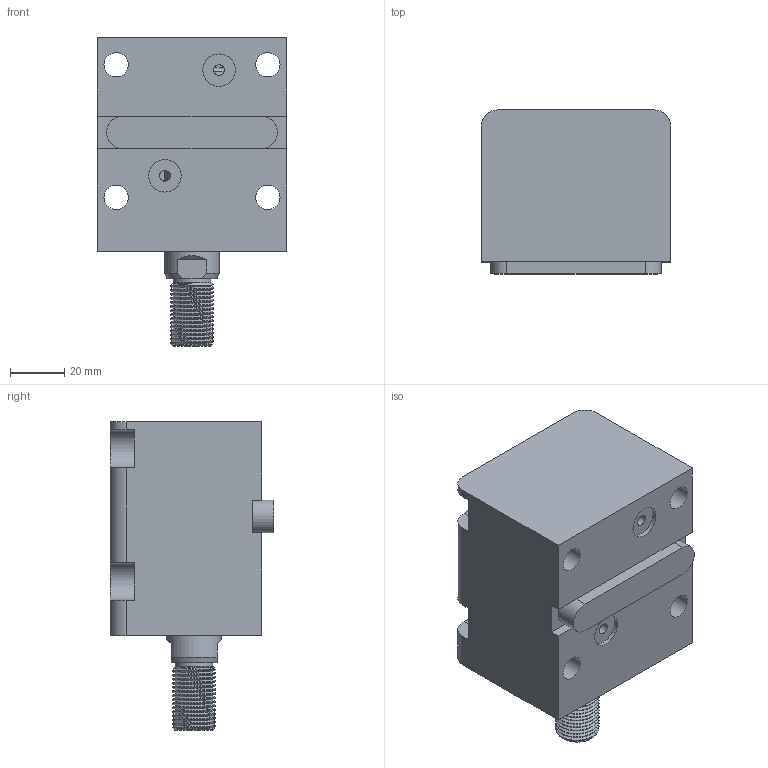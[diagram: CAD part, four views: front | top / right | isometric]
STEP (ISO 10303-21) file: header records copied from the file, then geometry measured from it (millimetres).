
FILE_DESCRIPTION(/* description */ (''),/* implementation_level */ '2;1');
FILE_NAME(/* name */ 'CHTB-LAM32-25W.stp',/* time_stamp */ '2022-04-29T16:08:39+08:00',/* author */ (''),/* organization */ (''),/* preprocessor_version */ 'ST-DEVELOPER v16.7',/* originating_system */ 'SIEMENS PLM Software NX 12.0',/* authorisation */ '');
FILE_SCHEMA (('AUTOMOTIVE_DESIGN { 1 0 10303 214 3 1 1 1 }'));
Length unit declared in the file: millimetre
Products named in the file (1): CHTB-LAM32-25W
Bounding box: 70 x 60.5 x 114 mm (x, y, z)
Volume: 285058.2 mm3; surface area: 59897.6 mm2
Topology: 3 solids, 3 shells, 484 faces, 1397 edges, 954 vertices
Faces by surface type: plane 315, extrusion 87, cylinder 48, bspline 12, torus 12, cone 10
Full cylindrical faces by diameter (mm): 3 x2, 4 x2, 9 x4, 12 x2, 14 x1, 20 x2, 24 x1, 24.5 x1, 26 x1, 32 x4, 38 x8, 40 x1
Entity records: 24866 total; most frequent: CARTESIAN_POINT 10588, ORIENTED_EDGE 2678, DIRECTION 1935, EDGE_CURVE 1339, VECTOR 999, VERTEX_POINT 945, LINE 912, EDGE_LOOP 560
